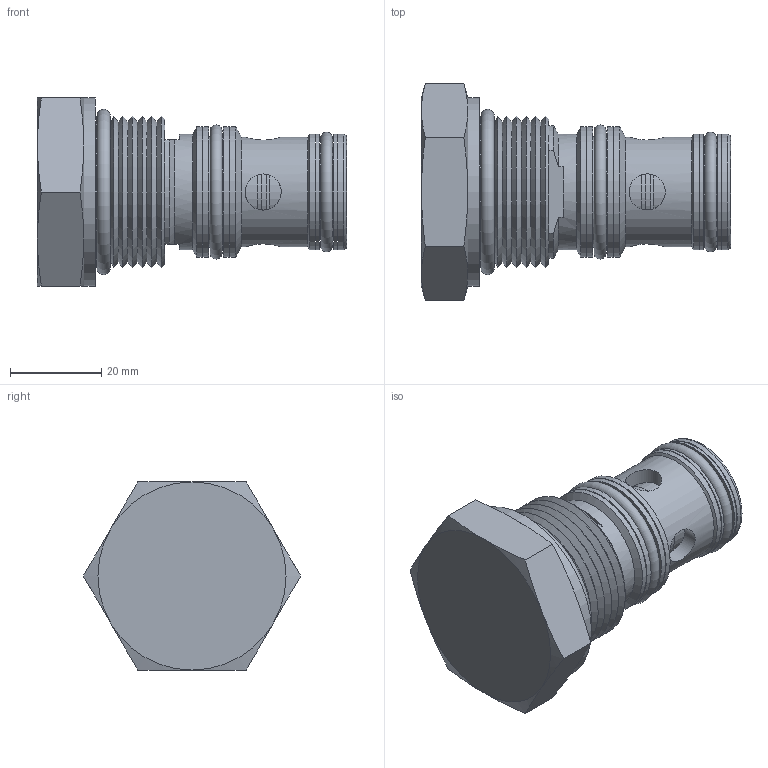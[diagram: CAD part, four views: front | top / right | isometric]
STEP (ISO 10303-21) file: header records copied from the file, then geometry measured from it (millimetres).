
FILE_DESCRIPTION((''),'2;1');
FILE_NAME('R:\Solids\Valve Solids exterior\Solids (.STEP)\SLPLB00-3D Full.stp','2011-12-12T12:57:13',('Dan'),(''),'Autodesk Inventor 2009','Autodesk Inventor 2009','');
FILE_SCHEMA(('AUTOMOTIVE_DESIGN { 1 0 10303 214 1 1 1 1 }'));
Length unit declared in the file: inch
Products named in the file (9): SLPLB00-3D Full; SLPLB00-3D Full1; SLPLB00-3D Full2; SLPLB00-3D Full3; SLPLB00-3D Full4; SLPLB00-3D Full5; SLPLB00-3D Full6; SLPLB00-3D Full7; SLPLB00-3D Full8
Assembly tree (8 placements, depth 2):
  SLPLB00-3D Full
    SLPLB00-3D Full1
    SLPLB00-3D Full2
    SLPLB00-3D Full3
    SLPLB00-3D Full4
    SLPLB00-3D Full5
    SLPLB00-3D Full6
    SLPLB00-3D Full7
    SLPLB00-3D Full8
Bounding box: 67.82 x 47.66 x 41.27 mm (x, y, z)
Volume: 48624.3 mm3; surface area: 17417.3 mm2
Topology: 8 solids, 8 shells, 110 faces, 217 edges, 131 vertices
Faces by surface type: cylinder 35, plane 34, cone 33, torus 5, bspline 3
Full cylindrical faces by diameter (mm): 7.925 x4, 9.525 x2, 10.109 x1, 15.875 x1, 15.922 x2, 16.51 x1, 17.446 x3, 17.479 x1, 21.006 x1, 21.031 x2, 24.13 x1, 24.181 x1, 24.206 x2, 25.349 x4, 25.4 x1, 28.524 x4, 30.328 x1, 41.275 x1
Entity records: 3058 total; most frequent: CARTESIAN_POINT 776, DIRECTION 466, ORIENTED_EDGE 308, AXIS2_PLACEMENT_3D 224, EDGE_LOOP 197, EDGE_CURVE 154, VERTEX_POINT 125, FACE_OUTER_BOUND 110
